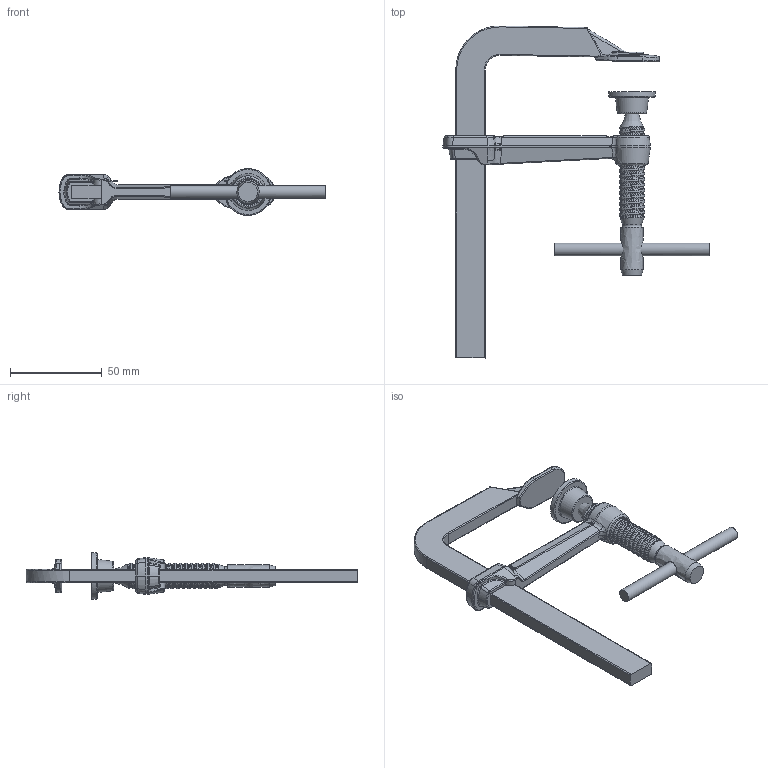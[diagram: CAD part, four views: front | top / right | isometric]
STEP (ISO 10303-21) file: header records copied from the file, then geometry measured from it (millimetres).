
FILE_DESCRIPTION( ('This file contains a STEP AP42 implementation' ,'as created by ZW3D STEP Interface translator.') ,'2;1' );
FILE_NAME( 'GS12-8K.stp' ,'20 7 1.115143', (''), ('ZWCAD Software Co.'), 'Version 1.0', 'ZW3D to STEP translator', '' );
FILE_SCHEMA(('AUTOMOTIVE_DESIGN'));
Length unit declared in the file: millimetre
Products named in the file (2): 0; GS12-8K
Bounding box: 145 x 180.87 x 25.48 mm (x, y, z)
Volume: 61753.2 mm3; surface area: 26960.9 mm2
Topology: 8 solids, 8 shells, 453 faces, 1157 edges, 720 vertices
Faces by surface type: bspline 453
Entity records: 141895 total; most frequent: CARTESIAN_POINT 134718, ORIENTED_EDGE 2314, EDGE_CURVE 1157, B_SPLINE_CURVE_WITH_KNOTS 894, VERTEX_POINT 720, EDGE_LOOP 465, FACE_OUTER_BOUND 453, ADVANCED_FACE 453
